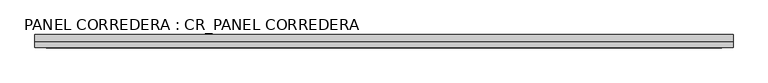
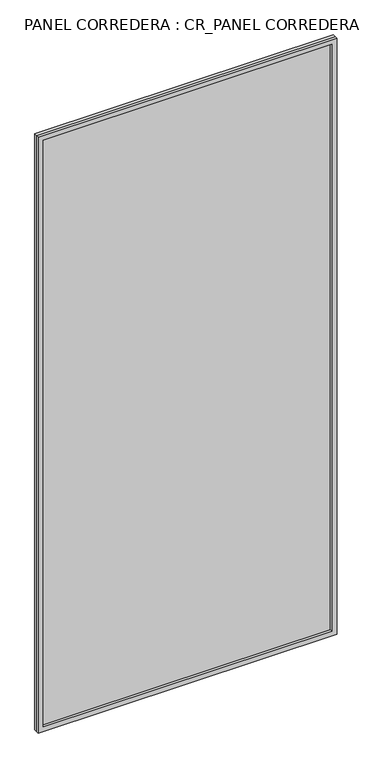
"""IFC4 building model written with IfcOpenShell, lengths in millimetres: plate geometry, PANEL CORREDERA : CR_PANEL CORREDERA."""

from ifc_helpers import new_model, si_unit, frame, origin, origin_with_axes, place, context, project, spatial, polyline, outline, extrude, source, transform, mapped, element, save


def panel_corredera_cr_panel_corredera_8db39db7(model_context):
    return source(origin(), model_context, "Body", "SweptSolid", [
        extrude(outline(polyline([(2550.0, -530.0), (0.0, -530.0), (0.0, 680.0), (2550.0, 680.0), (2550.0, -530.0)]), holes=[polyline([(2530.0, -510.0), (2530.0, 660.0), (20.0, 660.0), (20.0, -510.0), (2530.0, -510.0)])]), frame((0.0, 20.0, 0.0), z_axis=(0.0, 1.0, 0.0), x_axis=(0.0, 0.0, 1.0)), (0.0, 0.0, 1.0), 10.0),
        extrude(outline(polyline([(680.0, 30.0), (-530.0, 30.0), (-530.0, 42.5), (680.0, 42.5), (680.0, 30.0)])), origin_with_axes(), (0.0, 0.0, 1.0), 2550.0),
    ])


if __name__ == "__main__":
    model = new_model("IFC4")
    model_context = context("Model", 3, world=origin())
    ifc_project = project(units=[si_unit("LENGTHUNIT", "METRE", prefix="MILLI")], contexts=[model_context])
    site = spatial("IfcSite", under=ifc_project)
    building = spatial("IfcBuilding", under=site)
    placement = place(None, origin())
    panel_corredera_cr_panel_corredera_shape = panel_corredera_cr_panel_corredera_8db39db7(model_context)
    element("IfcPlate", 1, ObjectType="PANEL CORREDERA : CR_PANEL CORREDERA", at=placement, inside=building, context=model_context, shape_type="MappedRepresentation", body=[
        mapped(panel_corredera_cr_panel_corredera_shape, transform((0.0, 0.0, 0.0), x_axis=(1.0, 0.0, 0.0), y_axis=(0.0, 1.0, 0.0), z_axis=(0.0, 0.0, 1.0))),
    ])
    save(model, "model.ifc")
